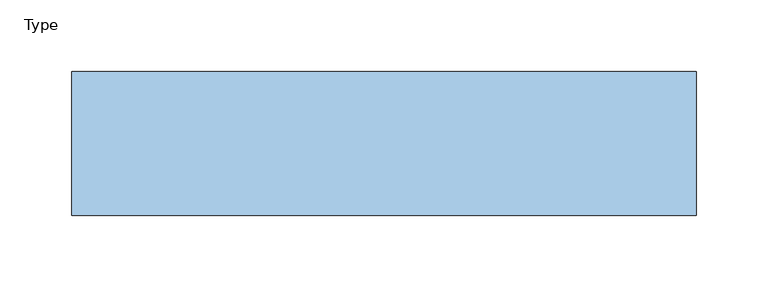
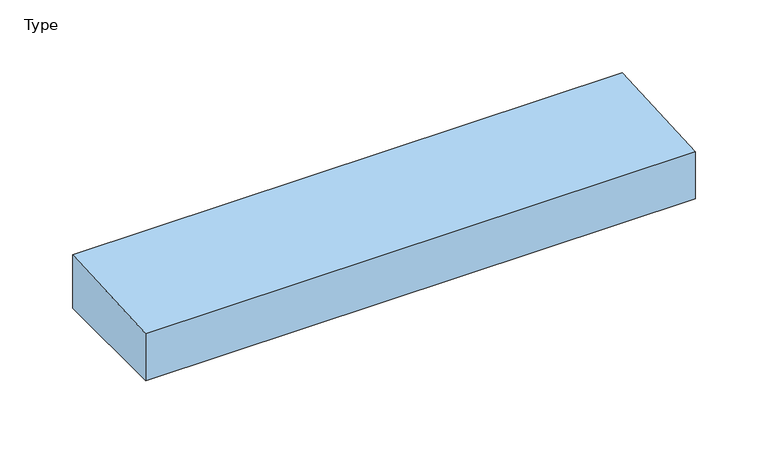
"""IFC4 building model written with IfcOpenShell, lengths in millimetres: window geometry, NLRS_30_MC_spouwlat_bovendorpel_boven_rekje_bis_45x101 : Type."""

from ifc_helpers import new_model, si_unit, frame, origin, place, context, project, spatial, polyline, outline, extrude, source, transform, mapped, element, save


def type_3ffed789(model_context):
    return source(origin(), model_context, "Body", "SweptSolid", [
        extrude(outline(polyline([(101.0, 0.0), (0.0, 0.0), (0.0, 39.7327915), (101.0, 45.0259772), (101.0, 0.0)])), frame((-218.5, 0.0, 0.0), z_axis=(1.0, 0.0, 0.0), x_axis=(0.0, 1.0, 0.0)), (0.0, 0.0, 1.0), 437.0),
    ])


if __name__ == "__main__":
    model = new_model("IFC4")
    model_context = context("Model", 3, world=origin())
    ifc_project = project(units=[si_unit("LENGTHUNIT", "METRE", prefix="MILLI")], contexts=[model_context])
    site = spatial("IfcSite", under=ifc_project)
    building = spatial("IfcBuilding", under=site)
    placement = place(None, origin())
    ifc_type_shape = type_3ffed789(model_context)
    element("IfcWindow", 1, ObjectType="NLRS_30_MC_spouwlat_bovendorpel_boven_rekje_bis_45x101 : Type", at=placement, inside=building, context=model_context, shape_type="MappedRepresentation", body=[
        mapped(ifc_type_shape, transform((0.0, 0.0, 0.0), x_axis=(1.0, 0.0, 0.0), y_axis=(0.0, 1.0, 0.0), z_axis=(0.0, 0.0, 1.0))),
    ])
    save(model, "model.ifc")
